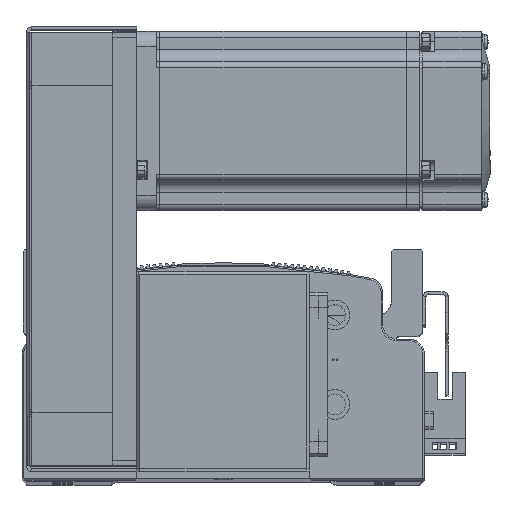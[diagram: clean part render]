
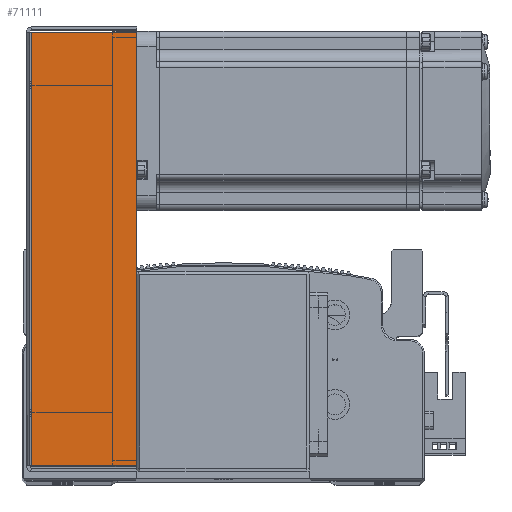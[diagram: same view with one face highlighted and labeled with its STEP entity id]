
A CAD part, top view. The second image highlights one B-rep face of the part: STEP entity #71111.
In plain terms, the highlighted planar face has unit normal (0, 0, 1).
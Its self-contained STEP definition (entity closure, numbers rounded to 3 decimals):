
#7691 = AXIS2_PLACEMENT_3D ( 'NONE', #81282, #81283, #81247 ) ;
#8660 = EDGE_LOOP ( 'NONE', ( #12377, #12405, #12367, #12407 ) ) ;
#12367 = ORIENTED_EDGE ( 'NONE', *, *, #62959, .T. ) ;
#12377 = ORIENTED_EDGE ( 'NONE', *, *, #62941, .F. ) ;
#12405 = ORIENTED_EDGE ( 'NONE', *, *, #62942, .T. ) ;
#12407 = ORIENTED_EDGE ( 'NONE', *, *, #62916, .F. ) ;
#40523 = DIRECTION ( 'NONE',  ( 0., 1., 0. ) ) ;
#40588 = CARTESIAN_POINT ( 'NONE',  ( -72.793, 0., 34.5 ) ) ;
#40660 = CARTESIAN_POINT ( 'NONE',  ( -74.5, 0.737, 34.5 ) ) ;
#40662 = CARTESIAN_POINT ( 'NONE',  ( 72.793, 0., 34.5 ) ) ;
#40701 = DIRECTION ( 'NONE',  ( 0., 1., 0. ) ) ;
#40745 = DIRECTION ( 'NONE',  ( -1., 0., 0. ) ) ;
#40805 = DIRECTION ( 'NONE',  ( -1., 0., 0. ) ) ;
#40839 = CARTESIAN_POINT ( 'NONE',  ( 0., 36., 34.5 ) ) ;
#44696 = VECTOR ( 'NONE', #40523, 1000. ) ;
#44788 = LINE ( 'NONE', #40588, #44696 ) ;
#44802 = LINE ( 'NONE', #40660, #44882 ) ;
#44872 = LINE ( 'NONE', #40839, #44892 ) ;
#44876 = VECTOR ( 'NONE', #40701, 1000. ) ;
#44882 = VECTOR ( 'NONE', #40745, 1000. ) ;
#44892 = VECTOR ( 'NONE', #40805, 1000. ) ;
#44926 = LINE ( 'NONE', #40662, #44876 ) ;
#58835 = CARTESIAN_POINT ( 'NONE',  ( 72.793, 0.737, 34.5 ) ) ;
#58953 = CARTESIAN_POINT ( 'NONE',  ( -72.793, 36., 34.5 ) ) ;
#58957 = CARTESIAN_POINT ( 'NONE',  ( -72.793, 0.737, 34.5 ) ) ;
#59012 = CARTESIAN_POINT ( 'NONE',  ( 72.793, 36., 34.5 ) ) ;
#60256 = VERTEX_POINT ( 'NONE', #58835 ) ;
#60309 = VERTEX_POINT ( 'NONE', #58957 ) ;
#60333 = VERTEX_POINT ( 'NONE', #58953 ) ;
#60336 = VERTEX_POINT ( 'NONE', #59012 ) ;
#62916 = EDGE_CURVE ( 'NONE', #60309, #60333, #44788, .T. ) ;
#62941 = EDGE_CURVE ( 'NONE', #60256, #60309, #44802, .T. ) ;
#62942 = EDGE_CURVE ( 'NONE', #60256, #60336, #44926, .T. ) ;
#62959 = EDGE_CURVE ( 'NONE', #60336, #60333, #44872, .T. ) ;
#71111 = ADVANCED_FACE ( 'NONE', ( #74853 ), #81251, .F. ) ;
#74853 = FACE_OUTER_BOUND ( 'NONE', #8660, .T. ) ;
#81247 = DIRECTION ( 'NONE',  ( -1., 0., 0. ) ) ;
#81251 = PLANE ( 'NONE',  #7691 ) ;
#81282 = CARTESIAN_POINT ( 'NONE',  ( 0., 0., 34.5 ) ) ;
#81283 = DIRECTION ( 'NONE',  ( 0., 0., -1. ) ) ;
